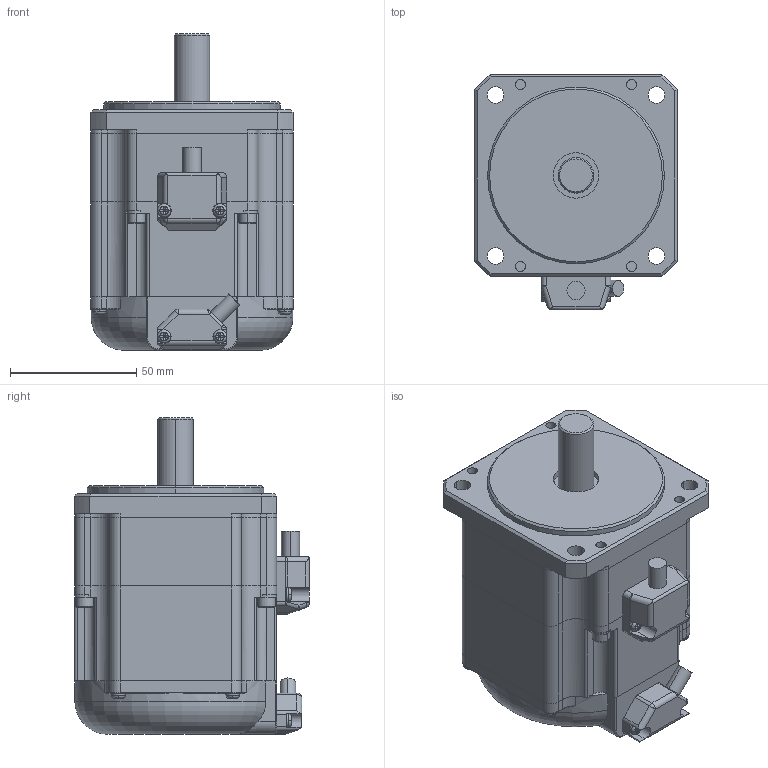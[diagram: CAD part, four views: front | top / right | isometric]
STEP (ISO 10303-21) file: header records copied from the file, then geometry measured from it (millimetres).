
FILE_DESCRIPTION(('Creo Elements/Direct Modeling STEP Export'),'2;1');
FILE_NAME('TS4611_BK有.stp','2016-12-22T16:45:47',(''),(''),'Creo Elements/Direct Modeling STEP processor for AP214 (Solid Model)','Creo Elements/Direct Modeling 17.0F 20-Aug-2012 (C) Parametric Technology GmbH','');
FILE_SCHEMA(('AUTOMOTIVE_DESIGN { 1 0 10303 214 1 1 1 1 }'));
Length unit declared in the file: millimetre
Products named in the file (2): TS4611N6000
Assembly tree (1 placements, depth 2):
  TS4611N6000
    TS4611N6000
Bounding box: 80 x 93 x 125.3 mm (x, y, z)
Volume: 542779.7 mm3; surface area: 44680.3 mm2
Topology: 1 solids, 1 shells, 658 faces, 1550 edges, 898 vertices
Faces by surface type: plane 333, cylinder 227, cone 40, sphere 29, torus 27, bspline 2
Entity records: 19647 total; most frequent: CARTESIAN_POINT 4102, DIRECTION 3108, ORIENTED_EDGE 3058, EDGE_CURVE 1529, AXIS2_PLACEMENT_3D 1185, VERTEX_POINT 898, VECTOR 738, LINE 738
